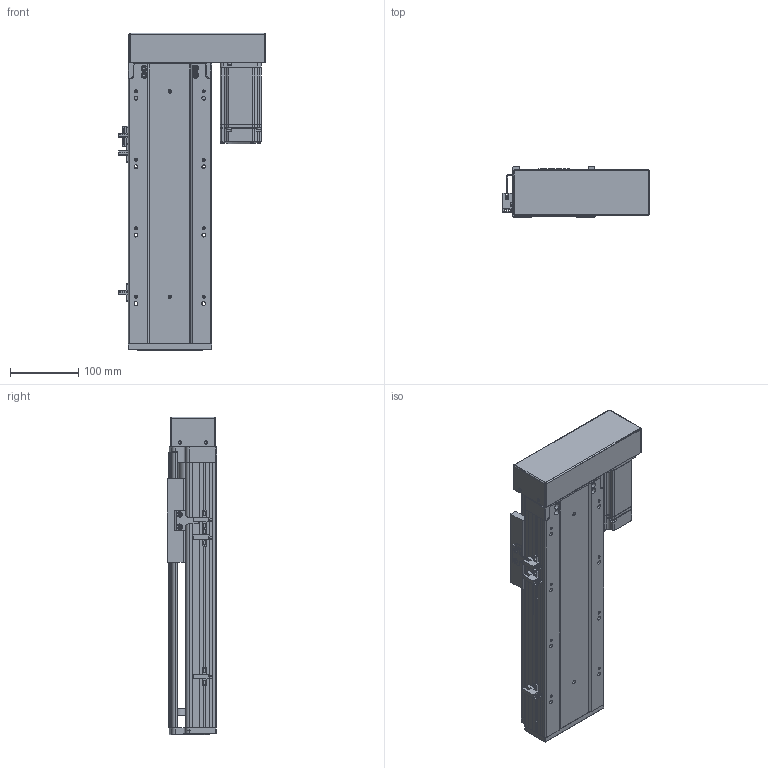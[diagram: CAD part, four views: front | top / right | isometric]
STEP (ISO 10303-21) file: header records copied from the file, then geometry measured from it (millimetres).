
FILE_DESCRIPTION (( 'STEP AP203' ), '1' );
FILE_NAME ('RY120-L2020-300-RK.SLDASM_200.step', '2021-03-12T07:13:51', ( '盈信电脑' ), ( '东莞市道滘镇水果街19号' ), 'SwSTEP 2.0', 'SolidWorks 2012', '' );
FILE_SCHEMA (( 'CONFIG_CONTROL_DESIGN' ));
Length unit declared in the file: millimetre
Products named in the file (15): RY120-L2020-300-RK.SLDASM_200; RY120蛌殏萇儂欶; 15; 侂狟400W侜督萇儂; RY120-400W萇儂傷-酘衵殏_450; RY120外置感应片(140共用）; RY120转拆电端丝杆支撑座(20丝杆，7002轴承); RY120酘殏萇儂假蚾啣; 滅袉蝶18-24; 滅袉蝶18-10; 覜茼ん672; RY120綴裔啣; RY120-300-RK蛌殏倰第奻裔啣_200; RY120臏賑輸(20蹟譫); RY120-300-RK蛌殏倰第菁釱_200
Assembly tree (17 placements, depth 4):
  RY120-L2020-300-RK.SLDASM_200
    RY120-300-RK蛌殏倰第菁釱_200
    RY120-300-RK蛌殏倰第奻裔啣_200
    RY120臏賑輸(20蹟譫)
    RY120綴裔啣
    覜茼ん672  x3
    滅袉蝶18-10
    滅袉蝶18-24  x2
    RY120外置感应片(140共用）
    RY120转拆电端丝杆支撑座(20丝杆，7002轴承)
    RY120-400W萇儂傷-酘衵殏_450
      RY120酘殏萇儂假蚾啣
      侂狟400W侜督萇儂
        15
      RY120蛌殏萇儂欶
Bounding box: 214.2 x 73 x 464 mm (x, y, z)
Volume: 1796454.4 mm3; surface area: 622286.7 mm2
Topology: 16 solids, 16 shells, 2238 faces, 6107 edges, 3918 vertices
Faces by surface type: plane 1186, cylinder 770, cone 177, bspline 105
Entity records: 72865 total; most frequent: CARTESIAN_POINT 19821, ORIENTED_EDGE 10974, DIRECTION 10235, EDGE_CURVE 5487, VERTEX_POINT 3586, VECTOR 3537, LINE 3537, AXIS2_PLACEMENT_3D 3349
